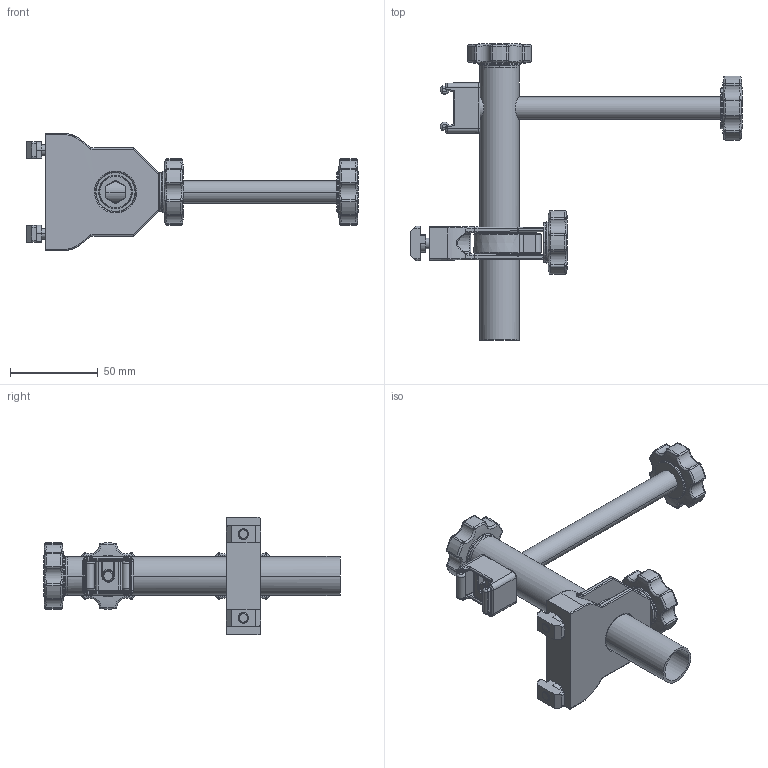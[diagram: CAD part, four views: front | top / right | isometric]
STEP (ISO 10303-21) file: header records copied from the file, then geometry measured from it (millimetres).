
FILE_DESCRIPTION((''),'2;1');
FILE_NAME('PASM0013_A_ASM','2016-06-02T',('adam.dellomodarme'),(''),'PRO/ENGINEER BY PARAMETRIC TECHNOLOGY CORPORATION, 2012420','PRO/ENGINEER BY PARAMETRIC TECHNOLOGY CORPORATION, 2012420','');
FILE_SCHEMA(('CONFIG_CONTROL_DESIGN'));
Length unit declared in the file: inch
Products named in the file (13): PX25758_0_875OD; P206380; P206381_THICK_WALL; PX25760_0_875OD; P920614M; PAK; P206382_HEX; P202028M_CAE; P206383_X26128; PX26127_FILET; 9206150M; P_KNOB; PASM0013_A_ASM
Assembly tree (17 placements, depth 2):
  PASM0013_A_ASM
    PX25758_0_875OD
    P206380
    P206381_THICK_WALL
    PX25760_0_875OD  x2
    P920614M  x2
    PAK  x2
    P206382_HEX
    P202028M_CAE
    P206383_X26128
    PX26127_FILET
    9206150M
    P_KNOB  x3
Bounding box: 188.92 x 168.45 x 66.8 mm (x, y, z)
Volume: 107316 mm3; surface area: 75567.8 mm2
Topology: 17 solids, 17 shells, 932 faces, 2251 edges, 1248 vertices
Faces by surface type: cylinder 338, plane 172, bspline 143, torus 118, sphere 102, cone 59
Entity records: 34995 total; most frequent: CARTESIAN_POINT 19101, ORIENTED_EDGE 3320, DIRECTION 3219, EDGE_CURVE 1660, AXIS2_PLACEMENT_3D 1305, VERTEX_POINT 979, EDGE_LOOP 737, FACE_OUTER_BOUND 704
